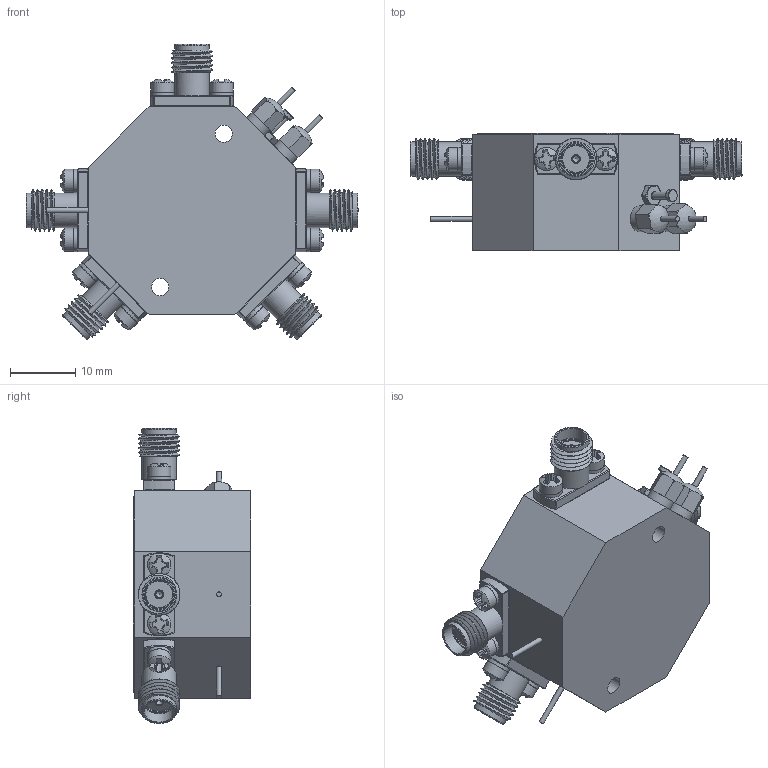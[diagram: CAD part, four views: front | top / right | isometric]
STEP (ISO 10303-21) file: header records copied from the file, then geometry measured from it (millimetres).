
FILE_DESCRIPTION (( 'STEP AP214' ), '1' );
FILE_NAME ('P4T-0R5G18G-70-T-SFF.STEP', '2024-02-23T21:28:19', ( '' ), ( '' ), 'SwSTEP 2.0', 'SolidWorks 2023', '' );
FILE_SCHEMA (( 'AUTOMOTIVE_DESIGN' ));
Length unit declared in the file: inch
Products named in the file (1): P4T-0R5G18G-70-T-SFF
Bounding box: 50.8 x 17.91 x 45.18 mm (x, y, z)
Volume: 16421.5 mm3; surface area: 8835.7 mm2
Topology: 45 solids, 45 shells, 1081 faces, 3632 edges, 2827 vertices
Faces by surface type: plane 572, cylinder 201, torus 137, sphere 78, cone 68, bspline 25
Full cylindrical faces by diameter (mm): 0.305 x10, 0.559 x5, 0.762 x2, 0.813 x4, 1.016 x5, 1.067 x1, 1.27 x5, 1.93 x1, 2.057 x2, 2.184 x10, 2.591 x10, 2.642 x2, 2.845 x2, 3.302 x5, 3.556 x10, 3.962 x2, 4.191 x10, 4.597 x5, 5.283 x10
Entity records: 64048 total; most frequent: CARTESIAN_POINT 18880, ORIENTED_EDGE 6638, DIRECTION 5551, EDGE_CURVE 3319, VERTEX_POINT 2788, AXIS2_PLACEMENT_3D 1971, VECTOR 1609, LINE 1609
